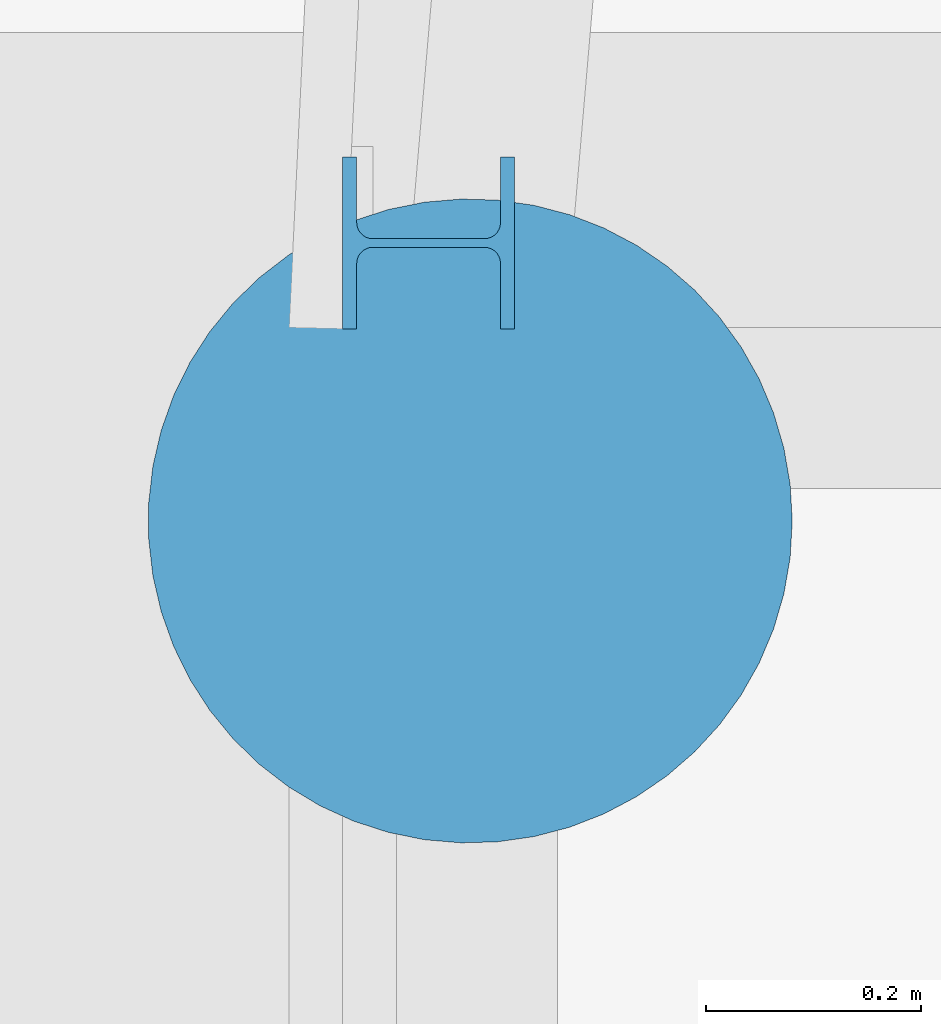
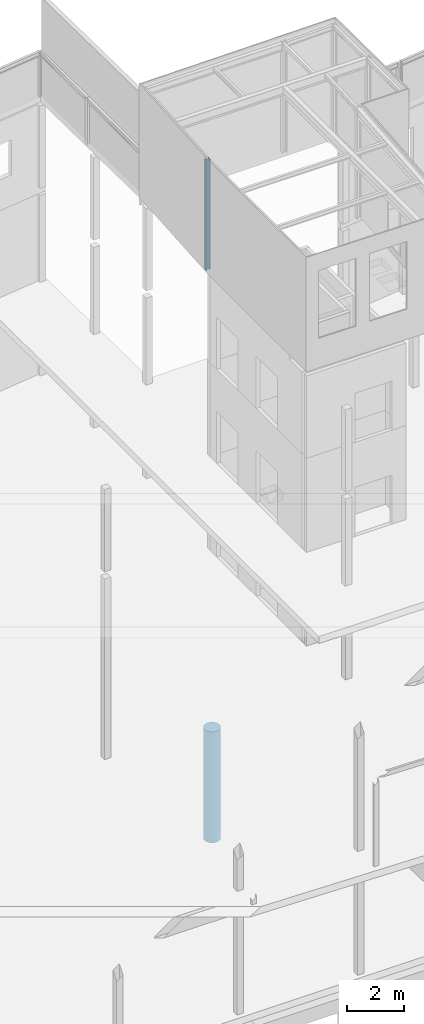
# One storey, part 26 of 82: 2 columns.
"""IFC2X3 building model written with IfcOpenShell, lengths in millimetres."""

from ifc_helpers import new_model, si_unit, frame, frame_2d, origin_with_axes, place, context, subcontext, project, spatial, circle, i_section, extrude, material, type_object, element, save


model = new_model("IFC2X3")

# Units and contexts
model_context = context("Model", 3, precision=1e-05, world=origin_with_axes())
body_context = subcontext(model_context, "Body", "Model", "MODEL_VIEW")
ifc_project = project(units=[si_unit("LENGTHUNIT", "METRE", prefix="MILLI"), si_unit("AREAUNIT", "SQUARE_METRE"), si_unit("VOLUMEUNIT", "CUBIC_METRE"), si_unit("MASSUNIT", "GRAM", prefix="KILO"), si_unit("TIMEUNIT", "SECOND"), si_unit("PLANEANGLEUNIT", "RADIAN"), si_unit("SOLIDANGLEUNIT", "STERADIAN"), si_unit("THERMODYNAMICTEMPERATUREUNIT", "DEGREE_CELSIUS"), si_unit("LUMINOUSINTENSITYUNIT", "LUMEN")], contexts=[model_context])

# Site, building, storey
site_placement = place(None, origin_with_axes())
site = spatial("IfcSite", under=ifc_project, at=site_placement, Name="Undefined", CompositionType="ELEMENT")
building_placement = place(site_placement, origin_with_axes())
building = spatial("IfcBuilding", under=site, at=building_placement, Name="Undefined", CompositionType="ELEMENT")
storey_placement = place(building_placement, origin_with_axes())
storey = spatial("IfcBuildingStorey", under=building, at=storey_placement, Name="Undefined", CompositionType="ELEMENT", Elevation=0.0)

# Columns
ifc_material_1 = material(Name="STEEL/S275JR")
column_type_1 = type_object("IfcColumnType", Name="HEB160", PredefinedType="NOTDEFINED")
column_1_placement = place(storey_placement, frame((29003.7636860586, 18643.7040013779, 17160.0), z_axis=(0.0, 0.0, 1.0), x_axis=(1.0, 0.0, 0.0)))
element("IfcColumn", 1, at=column_1_placement, inside=storey, type_object=column_type_1, material=ifc_material_1, Name="POTEAU", ObjectType="HEB160", context=body_context, shape_type="SweptSolid", body=[
    extrude(i_section(OverallWidth=160.0, OverallDepth=160.0, WebThickness=8.0, FlangeThickness=13.0, FilletRadius=15.0, at=frame_2d((5.17284206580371e-08, 4.49290382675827e-10), x_axis=(1.0, 0.0))), frame((0.0, 0.0, 4735.0), z_axis=(0.0, -6.50000002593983e-08, -0.999999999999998), x_axis=(-2.77555756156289e-17, -1.0, 0.0)), (0.0, 0.0, 1.0), 4735.0),
])
ifc_material_2 = material(Name="CONCRETE/C25/30")
column_type_2 = type_object("IfcColumnType", Name="D600", PredefinedType="NOTDEFINED")
column_2_placement = place(storey_placement, frame((29042.5108589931, 18384.7763382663, -7025.0), z_axis=(0.0, 0.0, 1.0), x_axis=(1.0, 0.0, 0.0)))
element("IfcColumn", 2, at=column_2_placement, inside=storey, type_object=column_type_2, material=ifc_material_2, Name="PIEU", ObjectType="D600", context=body_context, shape_type="SweptSolid", body=[
    extrude(circle(Radius=300.0, at=frame_2d((5.17284206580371e-08, 4.49290382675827e-10), x_axis=(1.0, 0.0))), frame((0.0, 0.0, 4750.0), z_axis=(0.0, -6.50000002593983e-08, -0.999999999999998), x_axis=(1.0, 0.0, 0.0)), (0.0, 0.0, 1.0), 4750.0),
])

save(model, "model.ifc")
